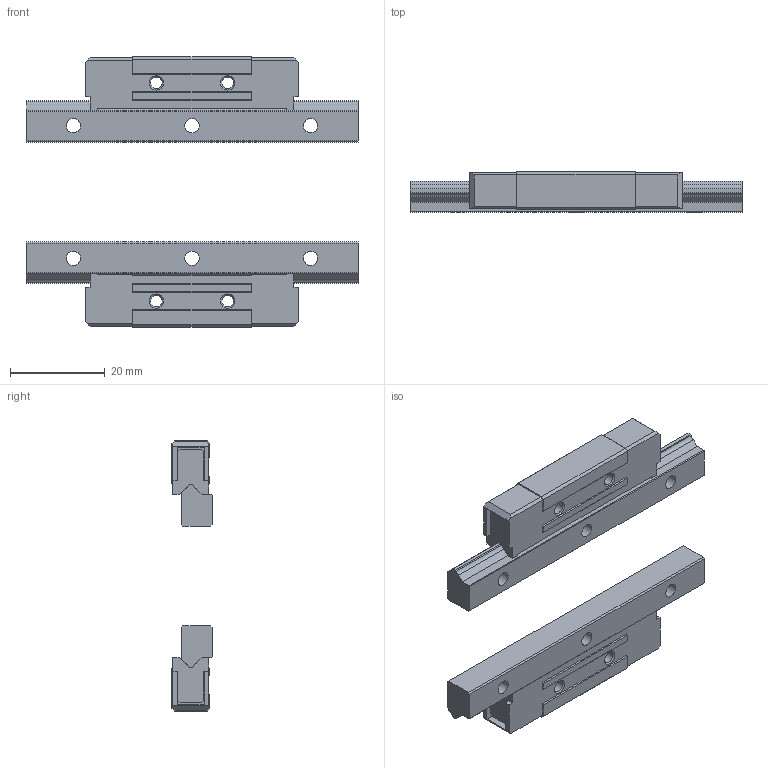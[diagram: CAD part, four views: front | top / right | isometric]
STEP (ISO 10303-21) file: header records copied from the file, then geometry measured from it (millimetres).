
FILE_DESCRIPTION(/* description */ ('STEP AP203'),/* implementation_level */ '2;1');
FILE_NAME(/* name */ 'HR918-70L_G10_28_12-5_0_0_0',/* time_stamp */ '2024-05-21T10:46:04+02:00',/* author */ ('License CC BY-ND 4.0'),/* organization */ ('CADENAS'),/* preprocessor_version */ 'ST-DEVELOPER v19.3',/* originating_system */ 'PARTsolutions',/* authorisation */ ' ');
FILE_SCHEMA (('CONFIG_CONTROL_DESIGN'));
Length unit declared in the file: millimetre
Products named in the file (5): HR918-70L_G10_28_12-5_0_0_0; HR91817010-Rail; HR918-Slider; HR91817010-Rail2; HR918-Slider2
Assembly tree (4 placements, depth 2):
  HR918-70L_G10_28_12-5_0_0_0
    HR91817010-Rail
    HR918-Slider
    HR91817010-Rail2
    HR918-Slider2
Bounding box: 70 x 8.5 x 57 mm (x, y, z)
Volume: 12985.8 mm3; surface area: 8932.6 mm2
Topology: 4 solids, 4 shells, 320 faces, 895 edges, 591 vertices
Faces by surface type: plane 268, cylinder 42, cone 10
Full cylindrical faces by diameter (mm): 1.5 x2, 2.459 x4, 3 x6, 5.5 x6
Entity records: 10143 total; most frequent: CARTESIAN_POINT 1779, ORIENTED_EDGE 1728, DIRECTION 1606, EDGE_CURVE 864, LINE 772, VECTOR 772, VERTEX_POINT 590, AXIS2_PLACEMENT_3D 417
